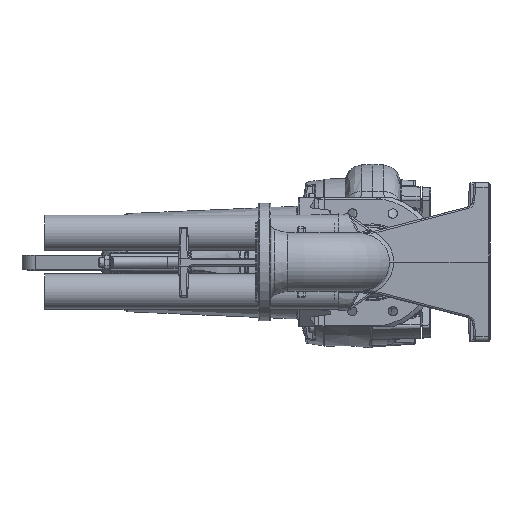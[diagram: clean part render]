
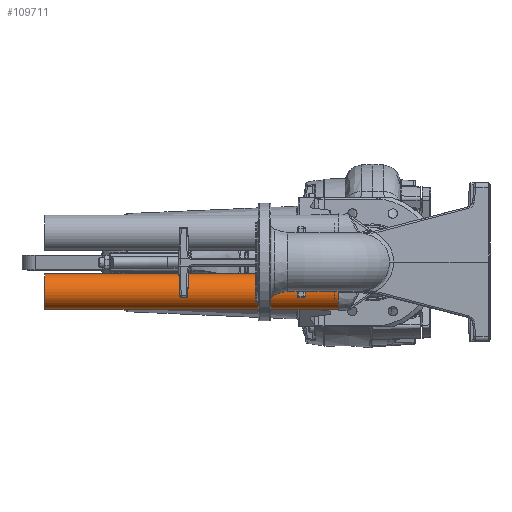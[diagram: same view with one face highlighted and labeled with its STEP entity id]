
A CAD part, top view. The second image highlights one B-rep face of the part: STEP entity #109711.
In plain terms, the highlighted cylindrical face has radius 30.15 mm (diameter 60.3 mm), a full revolution.
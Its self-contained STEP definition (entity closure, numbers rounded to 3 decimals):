
#2576 = AXIS2_PLACEMENT_3D ( 'NONE', #113459, #102975, #85617 ) ;
#13440 = AXIS2_PLACEMENT_3D ( 'NONE', #50605, #114924, #59820 ) ;
#17402 = DIRECTION ( 'NONE',  ( 1., 0., 0. ) ) ;
#26136 = ORIENTED_EDGE ( 'NONE', *, *, #70551, .F. ) ;
#32012 = VERTEX_POINT ( 'NONE', #84873 ) ;
#36517 = EDGE_LOOP ( 'NONE', ( #26136 ) ) ;
#38379 = CARTESIAN_POINT ( 'NONE',  ( 87., -50., -209.85 ) ) ;
#42356 = CYLINDRICAL_SURFACE ( 'NONE', #100087, 30.15 ) ;
#43421 = CARTESIAN_POINT ( 'NONE',  ( -413., -50., -240. ) ) ;
#50605 = CARTESIAN_POINT ( 'NONE',  ( -413., -50., -240. ) ) ;
#52478 = CIRCLE ( 'NONE', #13440, 30.15 ) ;
#53482 = VERTEX_POINT ( 'NONE', #38379 ) ;
#59820 = DIRECTION ( 'NONE',  ( 0., 0., 1. ) ) ;
#65879 = ORIENTED_EDGE ( 'NONE', *, *, #69315, .T. ) ;
#69315 = EDGE_CURVE ( 'NONE', #53482, #53482, #114309, .T. ) ;
#70551 = EDGE_CURVE ( 'NONE', #32012, #32012, #52478, .T. ) ;
#74079 = EDGE_LOOP ( 'NONE', ( #65879 ) ) ;
#84873 = CARTESIAN_POINT ( 'NONE',  ( -413., -50., -209.85 ) ) ;
#85617 = DIRECTION ( 'NONE',  ( 0., 0., 1. ) ) ;
#89656 = FACE_OUTER_BOUND ( 'NONE', #74079, .T. ) ;
#99971 = DIRECTION ( 'NONE',  ( 0., 0., -1. ) ) ;
#100087 = AXIS2_PLACEMENT_3D ( 'NONE', #43421, #17402, #99971 ) ;
#101187 = FACE_OUTER_BOUND ( 'NONE', #36517, .T. ) ;
#102975 = DIRECTION ( 'NONE',  ( -1., 0., 0. ) ) ;
#109711 = ADVANCED_FACE ( 'NONE', ( #101187, #89656 ), #42356, .T. ) ;
#113459 = CARTESIAN_POINT ( 'NONE',  ( 87., -50., -240. ) ) ;
#114309 = CIRCLE ( 'NONE', #2576, 30.15 ) ;
#114924 = DIRECTION ( 'NONE',  ( -1., 0., 0. ) ) ;
